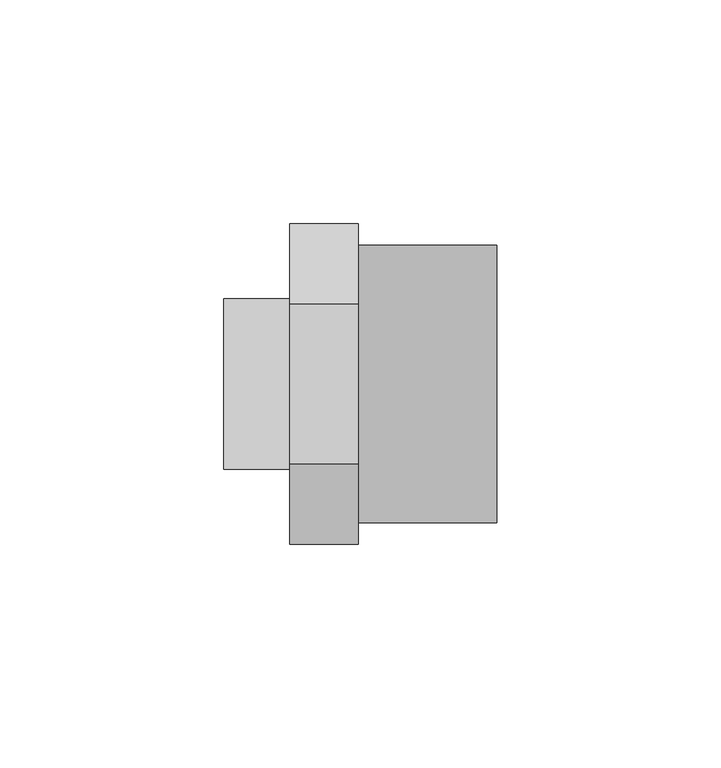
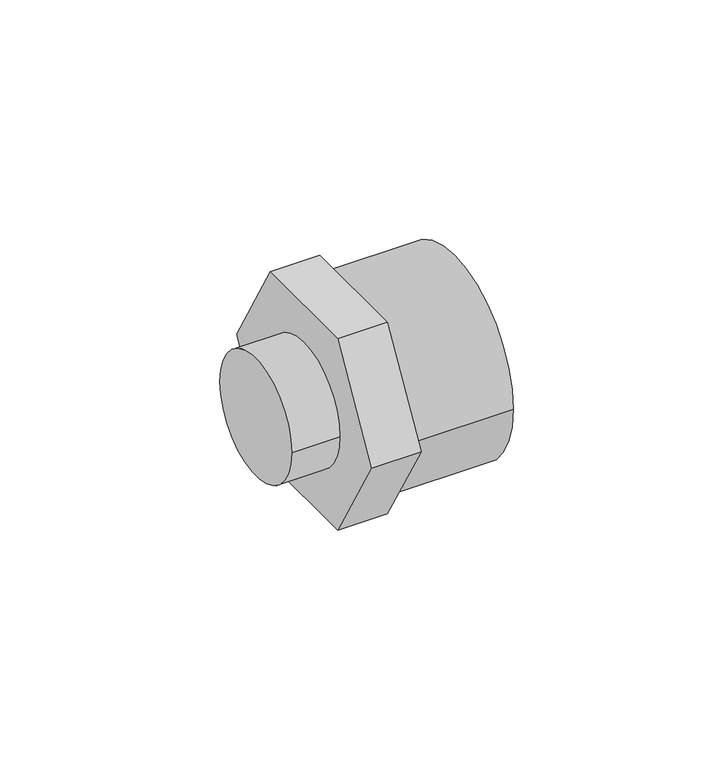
"""IFC4 building model written with IfcOpenShell, lengths in millimetres: pipe fitting geometry, 01101006 : Mamelons de réduction  F/M."""

from ifc_helpers import new_model, si_unit, point, frame, origin, origin_2d, place, context, project, spatial, polyline, circle_curve, trimmed, segment, composite_curve, outline, extrude, source, transform, mapped, element, save


def pipe_fitting_8f3d1718(model_context):
    return source(origin(), model_context, "Body", "SweptSolid", [
        extrude(outline(composite_curve([segment(trimmed(circle_curve(origin_2d(), 19.05), [point((19.05, 0.0))], [point((-19.05, 0.0))], False, "CARTESIAN"), True, "CONTINUOUS"), segment(trimmed(circle_curve(origin_2d(), 19.05), [point((-19.05, 0.0))], [point((19.05, 0.0))], False, "CARTESIAN"), True, "CONTINUOUS")], self_intersect=False)), frame((0.0, 0.0, 0.0), z_axis=(1.0, 0.0, 0.0), x_axis=(0.0, 1.0, 0.0)), (0.0, 0.0, 1.0), 14.75),
        extrude(outline(polyline([(-17.8978583, 31.0), (17.8978583, 31.0), (35.7957167, 0.0), (17.8978583, -31.0), (-17.8978583, -31.0), (-35.7957167, 0.0), (-17.8978583, 31.0)])), frame((14.75, 0.0, 0.0), z_axis=(1.0, 0.0, 0.0), x_axis=(0.0, 1.0, 0.0)), (0.0, 0.0, 1.0), 15.25),
        extrude(outline(composite_curve([segment(trimmed(circle_curve(origin_2d(), 31.0), [point((-31.0, 0.0))], [point((31.0, 0.0))], False, "CARTESIAN"), True, "CONTINUOUS"), segment(trimmed(circle_curve(origin_2d(), 31.0), [point((31.0, 0.0))], [point((-31.0, 0.0))], False, "CARTESIAN"), True, "CONTINUOUS")], self_intersect=False)), frame((30.0, 0.0, 0.0), z_axis=(1.0, 0.0, 0.0), x_axis=(0.0, 1.0, 0.0)), (0.0, 0.0, 1.0), 31.0),
    ])


if __name__ == "__main__":
    model = new_model("IFC4")
    model_context = context("Model", 3, world=origin())
    ifc_project = project(units=[si_unit("LENGTHUNIT", "METRE", prefix="MILLI")], contexts=[model_context])
    site = spatial("IfcSite", under=ifc_project)
    building = spatial("IfcBuilding", under=site)
    placement = place(None, origin())
    pipe_fitting_shape = pipe_fitting_8f3d1718(model_context)
    element("IfcPipeFitting", 1, ObjectType="01101006 : Mamelons de réduction  F/M", at=placement, inside=building, context=model_context, shape_type="MappedRepresentation", body=[
        mapped(pipe_fitting_shape, transform((0.0, 0.0, 0.0), x_axis=(1.0, 0.0, 0.0), y_axis=(0.0, 1.0, 0.0), z_axis=(0.0, 0.0, 1.0))),
    ])
    save(model, "model.ifc")
